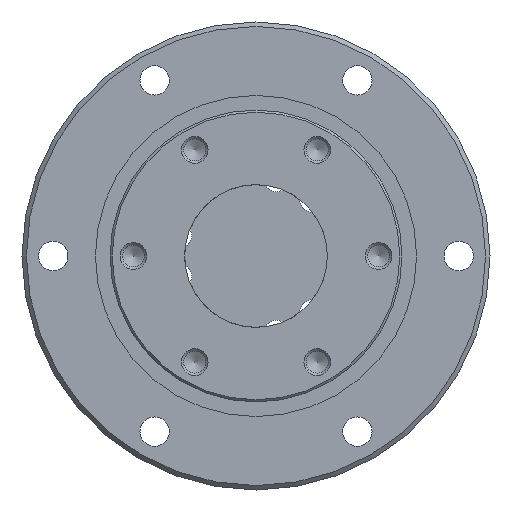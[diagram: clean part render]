
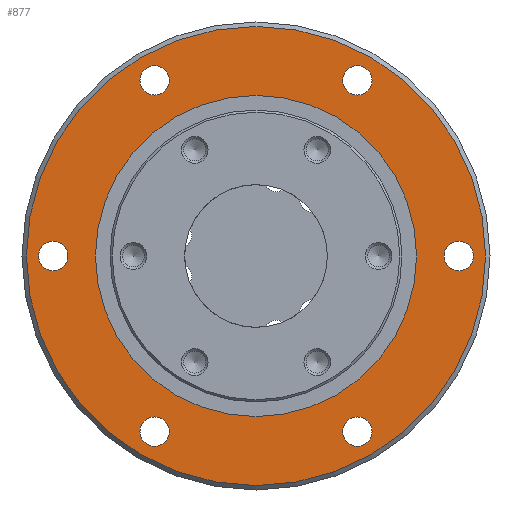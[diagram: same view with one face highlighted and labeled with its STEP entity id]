
A CAD part, left-side view. The second image highlights one B-rep face of the part: STEP entity #877.
In plain terms, the highlighted planar face has unit normal (-1, 0, 0).
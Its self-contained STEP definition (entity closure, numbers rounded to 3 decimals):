
#65=PLANE('',#1007);
#184=ORIENTED_EDGE('',*,*,#334,.F.);
#185=ORIENTED_EDGE('',*,*,#335,.F.);
#186=ORIENTED_EDGE('',*,*,#336,.F.);
#187=ORIENTED_EDGE('',*,*,#337,.F.);
#188=ORIENTED_EDGE('',*,*,#338,.F.);
#189=ORIENTED_EDGE('',*,*,#339,.F.);
#190=ORIENTED_EDGE('',*,*,#340,.F.);
#191=ORIENTED_EDGE('',*,*,#333,.T.);
#333=EDGE_CURVE('',#416,#416,#505,.T.);
#334=EDGE_CURVE('',#417,#417,#506,.T.);
#335=EDGE_CURVE('',#418,#418,#507,.F.);
#336=EDGE_CURVE('',#419,#419,#508,.F.);
#337=EDGE_CURVE('',#420,#420,#509,.F.);
#338=EDGE_CURVE('',#421,#421,#510,.F.);
#339=EDGE_CURVE('',#422,#422,#511,.F.);
#340=EDGE_CURVE('',#423,#423,#512,.F.);
#416=VERTEX_POINT('',#1528);
#417=VERTEX_POINT('',#1531);
#418=VERTEX_POINT('',#1533);
#419=VERTEX_POINT('',#1535);
#420=VERTEX_POINT('',#1537);
#421=VERTEX_POINT('',#1539);
#422=VERTEX_POINT('',#1541);
#423=VERTEX_POINT('',#1543);
#505=CIRCLE('',#1006,36.025);
#506=CIRCLE('',#1008,51.5);
#507=CIRCLE('',#1009,3.3);
#508=CIRCLE('',#1010,3.3);
#509=CIRCLE('',#1011,3.3);
#510=CIRCLE('',#1012,3.3);
#511=CIRCLE('',#1013,3.3);
#512=CIRCLE('',#1014,3.3);
#583=EDGE_LOOP('',(#184));
#584=EDGE_LOOP('',(#185));
#585=EDGE_LOOP('',(#186));
#586=EDGE_LOOP('',(#187));
#587=EDGE_LOOP('',(#188));
#588=EDGE_LOOP('',(#189));
#589=EDGE_LOOP('',(#190));
#590=EDGE_LOOP('',(#191));
#715=FACE_BOUND('',#583,.T.);
#716=FACE_BOUND('',#584,.T.);
#717=FACE_BOUND('',#585,.T.);
#718=FACE_BOUND('',#586,.T.);
#719=FACE_BOUND('',#587,.T.);
#720=FACE_BOUND('',#588,.T.);
#721=FACE_BOUND('',#589,.T.);
#722=FACE_BOUND('',#590,.T.);
#877=ADVANCED_FACE('',(#715,#716,#717,#718,#719,#720,#721,#722),#65,.F.);
#1006=AXIS2_PLACEMENT_3D('',#1527,#1228,#1229);
#1007=AXIS2_PLACEMENT_3D('',#1529,#1230,#1231);
#1008=AXIS2_PLACEMENT_3D('',#1530,#1232,#1233);
#1009=AXIS2_PLACEMENT_3D('',#1532,#1234,#1235);
#1010=AXIS2_PLACEMENT_3D('',#1534,#1236,#1237);
#1011=AXIS2_PLACEMENT_3D('',#1536,#1238,#1239);
#1012=AXIS2_PLACEMENT_3D('',#1538,#1240,#1241);
#1013=AXIS2_PLACEMENT_3D('',#1540,#1242,#1243);
#1014=AXIS2_PLACEMENT_3D('',#1542,#1244,#1245);
#1228=DIRECTION('',(1.,0.,0.));
#1229=DIRECTION('',(0.,0.,-1.));
#1230=DIRECTION('',(1.,0.,0.));
#1231=DIRECTION('',(0.,0.,-1.));
#1232=DIRECTION('',(1.,0.,0.));
#1233=DIRECTION('',(0.,0.,-1.));
#1234=DIRECTION('',(1.,0.,0.));
#1235=DIRECTION('',(0.,0.,-1.));
#1236=DIRECTION('',(1.,0.,0.));
#1237=DIRECTION('',(0.,0.,-1.));
#1238=DIRECTION('',(1.,0.,0.));
#1239=DIRECTION('',(0.,0.,-1.));
#1240=DIRECTION('',(1.,0.,0.));
#1241=DIRECTION('',(0.,0.,-1.));
#1242=DIRECTION('',(1.,0.,0.));
#1243=DIRECTION('',(0.,0.,-1.));
#1244=DIRECTION('',(1.,0.,0.));
#1245=DIRECTION('',(0.,0.,-1.));
#1527=CARTESIAN_POINT('',(17.,0.,0.));
#1528=CARTESIAN_POINT('',(17.,0.,-36.025));
#1529=CARTESIAN_POINT('',(17.,36.025,0.));
#1530=CARTESIAN_POINT('',(17.,0.,0.));
#1531=CARTESIAN_POINT('',(17.,0.,-51.5));
#1532=CARTESIAN_POINT('',(17.,45.5,0.));
#1533=CARTESIAN_POINT('',(17.,45.5,-3.3));
#1534=CARTESIAN_POINT('',(17.,22.75,-39.404));
#1535=CARTESIAN_POINT('',(17.,22.75,-42.704));
#1536=CARTESIAN_POINT('',(17.,-22.75,-39.404));
#1537=CARTESIAN_POINT('',(17.,-22.75,-42.704));
#1538=CARTESIAN_POINT('',(17.,-45.5,0.));
#1539=CARTESIAN_POINT('',(17.,-45.5,-3.3));
#1540=CARTESIAN_POINT('',(17.,-22.75,39.404));
#1541=CARTESIAN_POINT('',(17.,-22.75,36.104));
#1542=CARTESIAN_POINT('',(17.,22.75,39.404));
#1543=CARTESIAN_POINT('',(17.,22.75,36.104));
